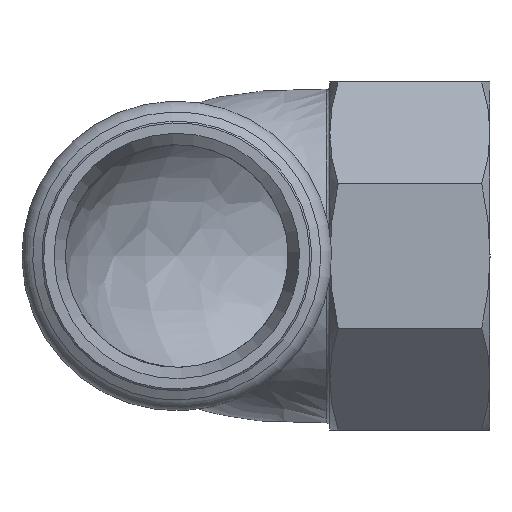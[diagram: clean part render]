
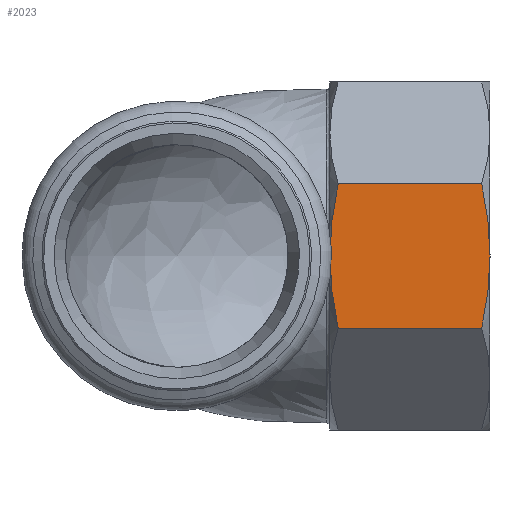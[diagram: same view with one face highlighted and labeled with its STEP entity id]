
A CAD part, left-side view. The second image highlights one B-rep face of the part: STEP entity #2023.
In plain terms, the highlighted planar face has unit normal (-1, 0, 0).
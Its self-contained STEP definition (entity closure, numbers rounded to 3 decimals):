
#1093=CARTESIAN_POINT('',(-25.,-22.,0.0));
#1094=VERTEX_POINT('',#1093);
#1258=CARTESIAN_POINT('',(-25.,-23.189,10.355));
#1259=VERTEX_POINT('',#1258);
#1260=CARTESIAN_POINT('',(-25.,-23.189,10.355));
#1261=CARTESIAN_POINT('',(-25.,-22.,4.973));
#1262=CARTESIAN_POINT('',(-25.,-22.,0.0));
#1270=(BOUNDED_CURVE()B_SPLINE_CURVE(2,(#1260,#1261,#1262),.UNSPECIFIED.,.F.,.U.)B_SPLINE_CURVE_WITH_KNOTS((3,3),(1.01,2.148),.UNSPECIFIED.)CURVE()GEOMETRIC_REPRESENTATION_ITEM()RATIONAL_B_SPLINE_CURVE((1.037,1.039,1.0))REPRESENTATION_ITEM(''));
#1271=EDGE_CURVE('',#1259,#1094,#1270,.T.);
#1295=CARTESIAN_POINT('',(-25.,-23.189,-10.355));
#1296=VERTEX_POINT('',#1295);
#1310=CARTESIAN_POINT('',(-25.,-22.,0.0));
#1311=CARTESIAN_POINT('',(-25.,-22.,-4.973));
#1312=CARTESIAN_POINT('',(-25.,-23.189,-10.355));
#1320=(BOUNDED_CURVE()B_SPLINE_CURVE(2,(#1310,#1311,#1312),.UNSPECIFIED.,.F.,.U.)B_SPLINE_CURVE_WITH_KNOTS((3,3),(2.148,3.286),.UNSPECIFIED.)CURVE()GEOMETRIC_REPRESENTATION_ITEM()RATIONAL_B_SPLINE_CURVE((1.0,1.039,1.037))REPRESENTATION_ITEM(''));
#1321=EDGE_CURVE('',#1094,#1296,#1320,.T.);
#1670=CARTESIAN_POINT('',(-25.,-43.811,-10.355));
#1671=VERTEX_POINT('',#1670);
#1685=CARTESIAN_POINT('',(-25.,-45.,0.0));
#1686=VERTEX_POINT('',#1685);
#1694=CARTESIAN_POINT('',(-25.,-43.811,-10.355));
#1695=CARTESIAN_POINT('',(-25.,-45.0,-4.973));
#1696=CARTESIAN_POINT('',(-25.,-45.,0.0));
#1704=(BOUNDED_CURVE()B_SPLINE_CURVE(2,(#1694,#1695,#1696),.UNSPECIFIED.,.F.,.U.)B_SPLINE_CURVE_WITH_KNOTS((3,3),(1.01,2.148),.UNSPECIFIED.)CURVE()GEOMETRIC_REPRESENTATION_ITEM()RATIONAL_B_SPLINE_CURVE((1.037,1.039,1.0))REPRESENTATION_ITEM(''));
#1705=EDGE_CURVE('',#1671,#1686,#1704,.T.);
#1715=CARTESIAN_POINT('',(-25.,-43.811,10.355));
#1716=VERTEX_POINT('',#1715);
#1717=CARTESIAN_POINT('',(-25.,-45.,0.0));
#1718=CARTESIAN_POINT('',(-25.,-45.,4.973));
#1719=CARTESIAN_POINT('',(-25.,-43.811,10.355));
#1727=(BOUNDED_CURVE()B_SPLINE_CURVE(2,(#1717,#1718,#1719),.UNSPECIFIED.,.F.,.U.)B_SPLINE_CURVE_WITH_KNOTS((3,3),(2.148,3.286),.UNSPECIFIED.)CURVE()GEOMETRIC_REPRESENTATION_ITEM()RATIONAL_B_SPLINE_CURVE((1.0,1.039,1.037))REPRESENTATION_ITEM(''));
#1728=EDGE_CURVE('',#1686,#1716,#1727,.T.);
#1832=CARTESIAN_POINT('',(-25.,-43.811,-10.355));
#1833=DIRECTION('',(0.0,1.0,0.0));
#1834=VECTOR('',#1833,20.622);
#1835=LINE('',#1832,#1834);
#1836=EDGE_CURVE('',#1671,#1296,#1835,.T.);
#1997=CARTESIAN_POINT('',(-25.,-43.811,10.355));
#1998=DIRECTION('',(0.0,1.0,0.0));
#1999=VECTOR('',#1998,20.622);
#2000=LINE('',#1997,#1999);
#2001=EDGE_CURVE('',#1716,#1259,#2000,.T.);
#2010=CARTESIAN_POINT('',(-25.,-45.,10.355));
#2011=DIRECTION('',(-1.0,0.0,0.0));
#2012=DIRECTION('',(0.0,0.0,1.0));
#2013=AXIS2_PLACEMENT_3D('',#2010,#2011,#2012);
#2014=PLANE('',#2013);
#2015=ORIENTED_EDGE('',*,*,#1321,.T.);
#2016=ORIENTED_EDGE('',*,*,#1836,.F.);
#2017=ORIENTED_EDGE('',*,*,#1705,.T.);
#2018=ORIENTED_EDGE('',*,*,#1728,.T.);
#2019=ORIENTED_EDGE('',*,*,#2001,.T.);
#2020=ORIENTED_EDGE('',*,*,#1271,.T.);
#2021=EDGE_LOOP('',(#2015,#2016,#2017,#2018,#2019,#2020));
#2022=FACE_OUTER_BOUND('',#2021,.T.);
#2023=ADVANCED_FACE('',(#2022),#2014,.T.);
